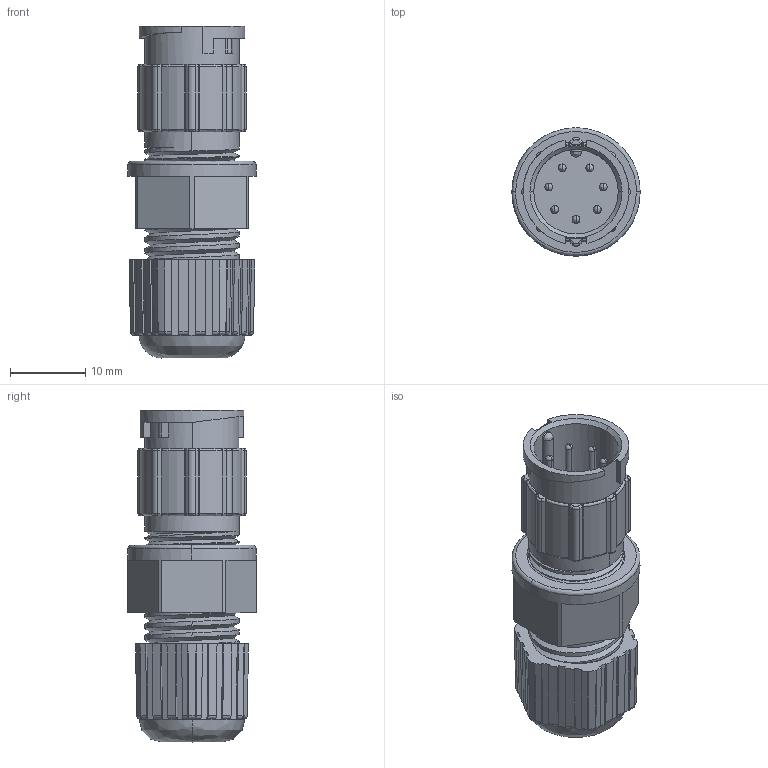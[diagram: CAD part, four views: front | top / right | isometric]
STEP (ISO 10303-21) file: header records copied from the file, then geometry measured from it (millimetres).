
FILE_DESCRIPTION (( 'STEP AP203' ), '1' );
FILE_NAME ('868-007-103KIT.STEP', '2025-12-17T18:20:26', ( '' ), ( '' ), 'SwSTEP 2.0', 'SolidWorks 2020', '' );
FILE_SCHEMA (( 'CONFIG_CONTROL_DESIGN' ));
Length unit declared in the file: millimetre
Products named in the file (1): 868-007-103KIT
Bounding box: 17 x 17 x 44 mm (x, y, z)
Volume: 4719.8 mm3; surface area: 5894.5 mm2
Topology: 1 solids, 1 shells, 671 faces, 1748 edges, 1064 vertices
Faces by surface type: cylinder 255, plane 198, bspline 148, cone 70
Entity records: 34059 total; most frequent: CARTESIAN_POINT 19410, ORIENTED_EDGE 3438, DIRECTION 2491, EDGE_CURVE 1719, VERTEX_POINT 1064, AXIS2_PLACEMENT_3D 924, EDGE_LOOP 703, FACE_OUTER_BOUND 671
